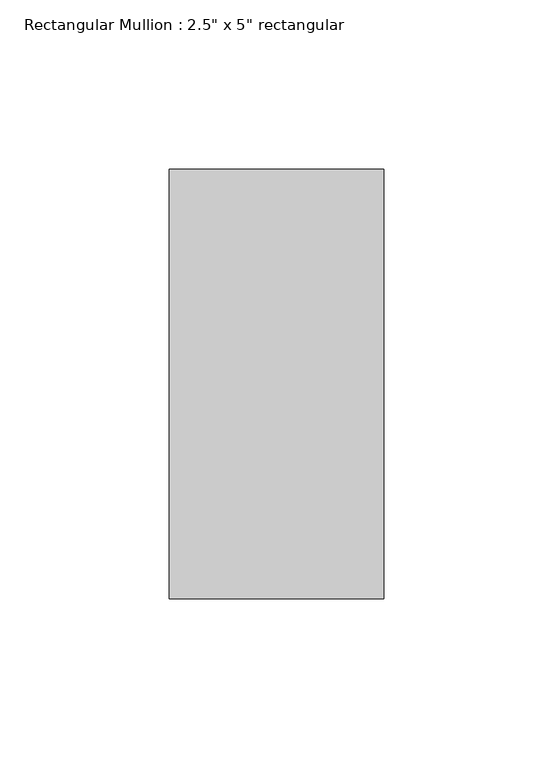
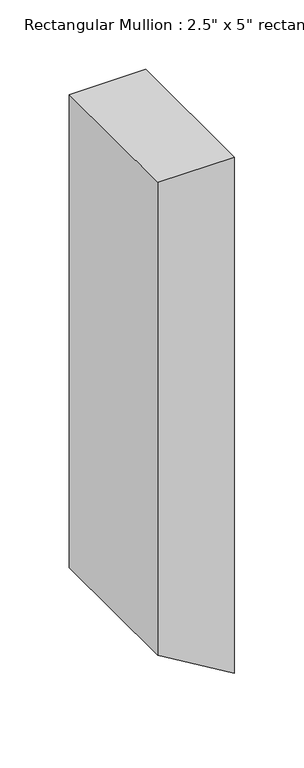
"""IFC4 building model written with IfcOpenShell, lengths in millimetres: member geometry."""

from ifc_helpers import new_model, si_unit, frame, origin, place, context, project, spatial, polyline, outline, extrude, source, transform, mapped, element, save


def member_cd5e3336(model_context):
    return source(origin(), model_context, "Body", "SweptSolid", [
        extrude(outline(polyline([(0.0, 0.0), (0.0, -63.5), (-415.5206806, -63.5), (-453.587271, 0.0), (0.0, 0.0)])), frame((0.0, -63.5, 0.0), z_axis=(0.0, 1.0, 0.0), x_axis=(0.0, 0.0, 1.0)), (0.0, 0.0, 1.0), 127.0),
    ])


if __name__ == "__main__":
    model = new_model("IFC4")
    model_context = context("Model", 3, world=origin())
    ifc_project = project(units=[si_unit("LENGTHUNIT", "METRE", prefix="MILLI")], contexts=[model_context])
    site = spatial("IfcSite", under=ifc_project)
    building = spatial("IfcBuilding", under=site)
    placement = place(None, origin())
    member_shape = member_cd5e3336(model_context)
    element("IfcMember", 1, ObjectType="Rectangular Mullion : 2.5\" x 5\" rectangular", at=placement, inside=building, context=model_context, shape_type="MappedRepresentation", body=[
        mapped(member_shape, transform((0.0, 0.0, 0.0), x_axis=(1.0, 0.0, 0.0), y_axis=(0.0, 1.0, 0.0), z_axis=(0.0, 0.0, 1.0))),
    ])
    save(model, "model.ifc")
